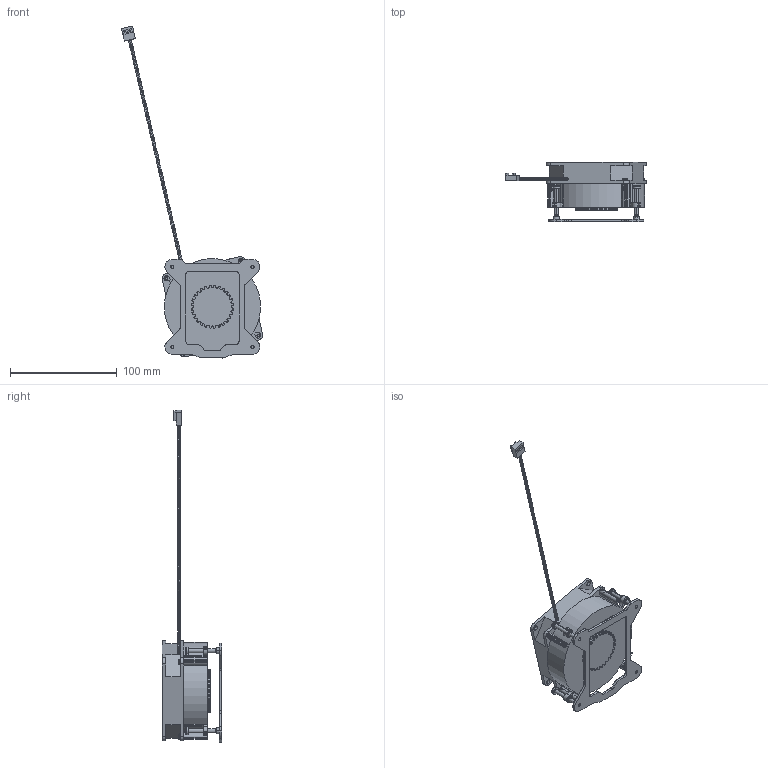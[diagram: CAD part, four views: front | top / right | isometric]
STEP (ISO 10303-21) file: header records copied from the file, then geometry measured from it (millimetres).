
FILE_DESCRIPTION((''),'2;1');
FILE_NAME('RG3219-45-002_ME_ASM','2022-11-21T',('User'),(''),'PRO/ENGINEER BY PARAMETRIC TECHNOLOGY CORPORATION, 2017170','PRO/ENGINEER BY PARAMETRIC TECHNOLOGY CORPORATION, 2017170','');
FILE_SCHEMA(('CONFIG_CONTROL_DESIGN'));
Length unit declared in the file: millimetre
Products named in the file (15): D90X25_AL_SINK__4; D90_25H_AL_ASSY_ASM_1_ASM; DEAKTOP_SCREW_D7_30_8L_1; E-RING_1; DESKTOP_SCREW_ASSY_ASM_1_ASM; DESKTOP_D90_25H_AL_ASSY_ASM_1_ASM; AD208020HBPA04_2; 4P-PLUGZ__VORTEX__2; FAN_SCREW_T3X10MM_1; LABEL_R30_1_1; AD208020HBPA04_ASM_1_ASM; 850-BP1156_1; MYLER_1; 850-BP1156_ASSY__ASM_1_ASM; RG3219-45-002_ME_ASM
Assembly tree (20 placements, depth 4):
  RG3219-45-002_ME_ASM
    DESKTOP_D90_25H_AL_ASSY_ASM_1_ASM
      D90_25H_AL_ASSY_ASM_1_ASM
        D90X25_AL_SINK__4
      DESKTOP_SCREW_ASSY_ASM_1_ASM  x4
        DEAKTOP_SCREW_D7_30_8L_1
        E-RING_1
    AD208020HBPA04_ASM_1_ASM
      AD208020HBPA04_2
      4P-PLUGZ__VORTEX__2
      FAN_SCREW_T3X10MM_1  x4
      LABEL_R30_1_1
    850-BP1156_ASSY__ASM_1_ASM
      850-BP1156_1
      MYLER_1
Bounding box: 132.18 x 55.8 x 310.86 mm (x, y, z)
Volume: 259443.4 mm3; surface area: 72912.3 mm2
Topology: 18 solids, 18 shells, 2911 faces, 7940 edges, 5144 vertices
Faces by surface type: plane 1744, bspline 561, cylinder 495, extrusion 95, torus 16
Entity records: 116381 total; most frequent: CARTESIAN_POINT 66939, ORIENTED_EDGE 11326, DIRECTION 8139, EDGE_CURVE 5663, VERTEX_POINT 3629, VECTOR 3609, LINE 3514, AXIS2_PLACEMENT_3D 2265
